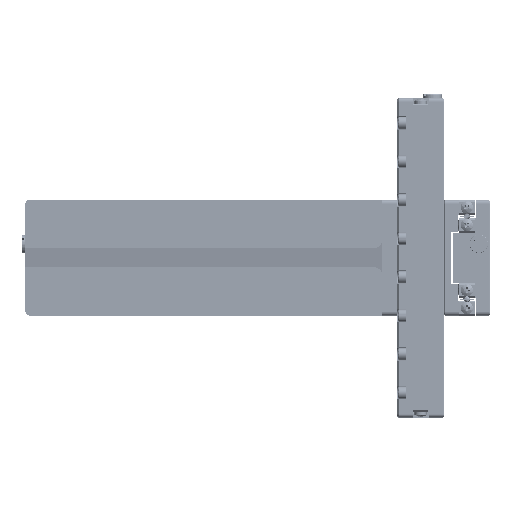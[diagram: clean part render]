
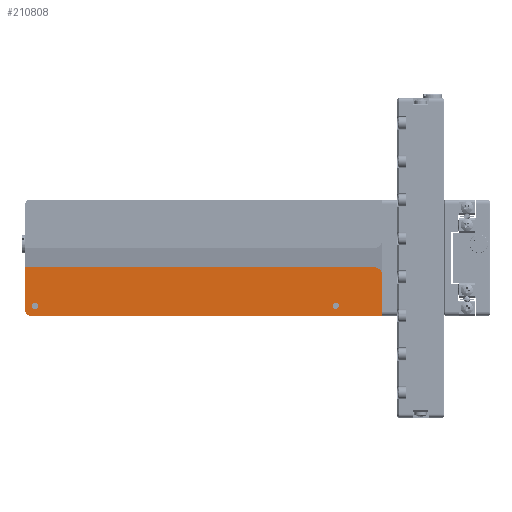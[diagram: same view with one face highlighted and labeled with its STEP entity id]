
A CAD part, left-side view. The second image highlights one B-rep face of the part: STEP entity #210808.
In plain terms, the highlighted planar face has unit normal (-1, 0, 0).
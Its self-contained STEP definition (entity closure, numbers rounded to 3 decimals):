
#17895 = CARTESIAN_POINT ( 'NONE',  ( 40.931, 106.536, -12.51 ) ) ;
#21045 = ORIENTED_EDGE ( 'NONE', *, *, #119325, .T. ) ;
#21080 = FACE_BOUND ( 'NONE', #34999, .T. ) ;
#21846 = VERTEX_POINT ( 'NONE', #62151 ) ;
#27559 = DIRECTION ( 'NONE',  ( 0., 0., -1. ) ) ;
#31990 = CARTESIAN_POINT ( 'NONE',  ( 40.931, 108.036, -15.01 ) ) ;
#34188 = VERTEX_POINT ( 'NONE', #215655 ) ;
#34999 = EDGE_LOOP ( 'NONE', ( #154480, #101145 ) ) ;
#35298 = CARTESIAN_POINT ( 'NONE',  ( 40.931, 16.536, -4.51 ) ) ;
#37102 = DIRECTION ( 'NONE',  ( 0., 0., -1. ) ) ;
#52354 = VERTEX_POINT ( 'NONE', #109639 ) ;
#53144 = EDGE_CURVE ( 'NONE', #104968, #171031, #163327, .T. ) ;
#56046 = CARTESIAN_POINT ( 'NONE',  ( 40.931, 28.536, -12.51 ) ) ;
#57460 = EDGE_CURVE ( 'NONE', #21846, #115826, #267688, .T. ) ;
#58345 = CARTESIAN_POINT ( 'NONE',  ( 40.931, 28.536, -11.71 ) ) ;
#58769 = CIRCLE ( 'NONE', #80479, 0.8 ) ;
#58844 = ORIENTED_EDGE ( 'NONE', *, *, #144636, .T. ) ;
#62151 = CARTESIAN_POINT ( 'NONE',  ( 40.931, 109.036, -14.01 ) ) ;
#66744 = CARTESIAN_POINT ( 'NONE',  ( 40.931, 16.536, -15.01 ) ) ;
#73352 = DIRECTION ( 'NONE',  ( 1., 0., 0. ) ) ;
#73963 = VECTOR ( 'NONE', #164426, 1000. ) ;
#74114 = CARTESIAN_POINT ( 'NONE',  ( 40.931, 28.536, -13.31 ) ) ;
#77062 = ORIENTED_EDGE ( 'NONE', *, *, #229899, .F. ) ;
#80479 = AXIS2_PLACEMENT_3D ( 'NONE', #264916, #156749, #240660 ) ;
#82669 = DIRECTION ( 'NONE',  ( 0., 0., -1. ) ) ;
#84184 = CARTESIAN_POINT ( 'NONE',  ( 40.931, 18.536, -2.51 ) ) ;
#94499 = AXIS2_PLACEMENT_3D ( 'NONE', #263415, #73352, #223252 ) ;
#95982 = EDGE_CURVE ( 'NONE', #216234, #270519, #170386, .T. ) ;
#96248 = DIRECTION ( 'NONE',  ( 0., 0., -1. ) ) ;
#101145 = ORIENTED_EDGE ( 'NONE', *, *, #260989, .T. ) ;
#103429 = DIRECTION ( 'NONE',  ( 1., 0., 0. ) ) ;
#104968 = VERTEX_POINT ( 'NONE', #74114 ) ;
#105430 = AXIS2_PLACEMENT_3D ( 'NONE', #251975, #121632, #37102 ) ;
#109482 = VECTOR ( 'NONE', #82669, 1000. ) ;
#109639 = CARTESIAN_POINT ( 'NONE',  ( 40.931, 106.536, -11.71 ) ) ;
#109694 = VECTOR ( 'NONE', #246452, 1000. ) ;
#113021 = DIRECTION ( 'NONE',  ( -1., 0., 0. ) ) ;
#113102 = LINE ( 'NONE', #225068, #109694 ) ;
#115826 = VERTEX_POINT ( 'NONE', #31990 ) ;
#117881 = EDGE_CURVE ( 'NONE', #270519, #34188, #207211, .T. ) ;
#119325 = EDGE_CURVE ( 'NONE', #115826, #215062, #113102, .T. ) ;
#121632 = DIRECTION ( 'NONE',  ( -1., 0., 0. ) ) ;
#123690 = EDGE_LOOP ( 'NONE', ( #265590, #58844 ) ) ;
#128346 = ORIENTED_EDGE ( 'NONE', *, *, #57460, .T. ) ;
#140467 = CARTESIAN_POINT ( 'NONE',  ( 40.931, 109.036, 14.99 ) ) ;
#142922 = ORIENTED_EDGE ( 'NONE', *, *, #117881, .T. ) ;
#144636 = EDGE_CURVE ( 'NONE', #171031, #104968, #270014, .T. ) ;
#146602 = ORIENTED_EDGE ( 'NONE', *, *, #225216, .T. ) ;
#154000 = CARTESIAN_POINT ( 'NONE',  ( 40.931, 18.536, -4.51 ) ) ;
#154480 = ORIENTED_EDGE ( 'NONE', *, *, #184089, .T. ) ;
#156749 = DIRECTION ( 'NONE',  ( 1., 0., 0. ) ) ;
#163327 = CIRCLE ( 'NONE', #171330, 0.8 ) ;
#164426 = DIRECTION ( 'NONE',  ( 0., 1., 0. ) ) ;
#170386 = CIRCLE ( 'NONE', #243383, 2. ) ;
#171031 = VERTEX_POINT ( 'NONE', #58345 ) ;
#171330 = AXIS2_PLACEMENT_3D ( 'NONE', #181489, #266375, #224359 ) ;
#172689 = VERTEX_POINT ( 'NONE', #211533 ) ;
#176115 = ORIENTED_EDGE ( 'NONE', *, *, #95982, .T. ) ;
#180193 = AXIS2_PLACEMENT_3D ( 'NONE', #56046, #204824, #203889 ) ;
#181489 = CARTESIAN_POINT ( 'NONE',  ( 40.931, 28.536, -12.51 ) ) ;
#184089 = EDGE_CURVE ( 'NONE', #172689, #52354, #265264, .T. ) ;
#184092 = FACE_OUTER_BOUND ( 'NONE', #267403, .T. ) ;
#197201 = VECTOR ( 'NONE', #96248, 1000. ) ;
#201774 = PLANE ( 'NONE',  #94499 ) ;
#203889 = DIRECTION ( 'NONE',  ( 0., 0., -1. ) ) ;
#204824 = DIRECTION ( 'NONE',  ( 1., 0., 0. ) ) ;
#207211 = LINE ( 'NONE', #268871, #73963 ) ;
#210808 = ADVANCED_FACE ( 'NONE', ( #21080, #240837, #184092 ), #201774, .F. ) ;
#211533 = CARTESIAN_POINT ( 'NONE',  ( 40.931, 106.536, -13.31 ) ) ;
#215062 = VERTEX_POINT ( 'NONE', #66744 ) ;
#215655 = CARTESIAN_POINT ( 'NONE',  ( 40.931, 109.036, -2.51 ) ) ;
#216045 = LINE ( 'NONE', #140467, #109482 ) ;
#216234 = VERTEX_POINT ( 'NONE', #35298 ) ;
#223252 = DIRECTION ( 'NONE',  ( 0., 0., -1. ) ) ;
#224359 = DIRECTION ( 'NONE',  ( 0., 0., -1. ) ) ;
#225068 = CARTESIAN_POINT ( 'NONE',  ( 40.931, 16.536, -15.01 ) ) ;
#225216 = EDGE_CURVE ( 'NONE', #34188, #21846, #216045, .T. ) ;
#229899 = EDGE_CURVE ( 'NONE', #216234, #215062, #263879, .T. ) ;
#230298 = CARTESIAN_POINT ( 'NONE',  ( 40.931, 16.536, 14.99 ) ) ;
#232782 = DIRECTION ( 'NONE',  ( 0., 0., -1. ) ) ;
#240660 = DIRECTION ( 'NONE',  ( 0., 0., -1. ) ) ;
#240837 = FACE_BOUND ( 'NONE', #123690, .T. ) ;
#243383 = AXIS2_PLACEMENT_3D ( 'NONE', #154000, #113021, #27559 ) ;
#246452 = DIRECTION ( 'NONE',  ( 0., -1., 0. ) ) ;
#251975 = CARTESIAN_POINT ( 'NONE',  ( 40.931, 108.036, -14.01 ) ) ;
#258383 = AXIS2_PLACEMENT_3D ( 'NONE', #17895, #103429, #232782 ) ;
#260989 = EDGE_CURVE ( 'NONE', #52354, #172689, #58769, .T. ) ;
#263415 = CARTESIAN_POINT ( 'NONE',  ( 40.931, 16.536, 14.99 ) ) ;
#263879 = LINE ( 'NONE', #230298, #197201 ) ;
#264916 = CARTESIAN_POINT ( 'NONE',  ( 40.931, 106.536, -12.51 ) ) ;
#265264 = CIRCLE ( 'NONE', #258383, 0.8 ) ;
#265590 = ORIENTED_EDGE ( 'NONE', *, *, #53144, .T. ) ;
#266375 = DIRECTION ( 'NONE',  ( 1., 0., 0. ) ) ;
#267403 = EDGE_LOOP ( 'NONE', ( #146602, #128346, #21045, #77062, #176115, #142922 ) ) ;
#267688 = CIRCLE ( 'NONE', #105430, 1. ) ;
#268871 = CARTESIAN_POINT ( 'NONE',  ( 40.931, 109.036, -2.51 ) ) ;
#270014 = CIRCLE ( 'NONE', #180193, 0.8 ) ;
#270519 = VERTEX_POINT ( 'NONE', #84184 ) ;
